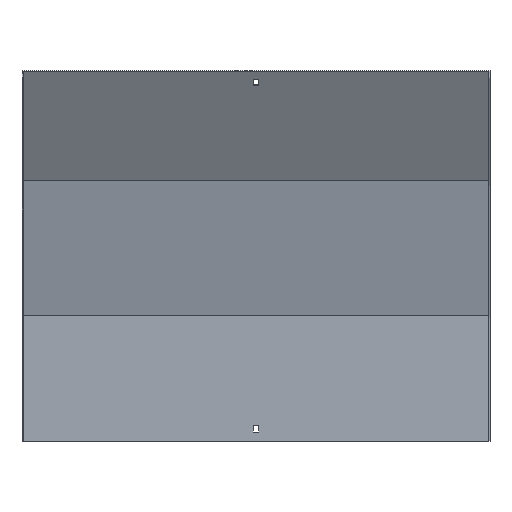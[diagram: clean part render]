
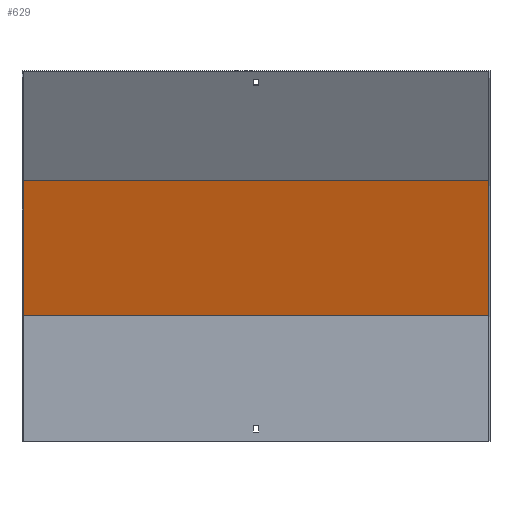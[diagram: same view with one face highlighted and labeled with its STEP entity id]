
A CAD part, front view. The second image highlights one B-rep face of the part: STEP entity #629.
In plain terms, the highlighted planar face has unit normal (0, -0.966, -0.259).
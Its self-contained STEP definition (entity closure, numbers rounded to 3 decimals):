
#61 = FACE_OUTER_BOUND ( 'NONE', #639, .T. ) ;
#119 = VECTOR ( 'NONE', #249, 1000. ) ;
#170 = DIRECTION ( 'NONE',  ( -1., 0., 0. ) ) ;
#178 = DIRECTION ( 'NONE',  ( 0., -0.259, 0.966 ) ) ;
#188 = VECTOR ( 'NONE', #170, 1000. ) ;
#236 = LINE ( 'NONE', #508, #188 ) ;
#249 = DIRECTION ( 'NONE',  ( -1., 0., 0. ) ) ;
#256 = CARTESIAN_POINT ( 'NONE',  ( 300., 18.5, 162.436 ) ) ;
#302 = DIRECTION ( 'NONE',  ( 0., -0.966, -0.259 ) ) ;
#315 = CARTESIAN_POINT ( 'NONE',  ( 301.5, 17.87, 164.788 ) ) ;
#318 = CARTESIAN_POINT ( 'NONE',  ( 301.5, -28.054, 336.178 ) ) ;
#364 = VECTOR ( 'NONE', #178, 1000. ) ;
#366 = CARTESIAN_POINT ( 'NONE',  ( 300., 57.87, 15.506 ) ) ;
#452 = CARTESIAN_POINT ( 'NONE',  ( -300., 18.5, 162.436 ) ) ;
#457 = DIRECTION ( 'NONE',  ( 0., -0.259, 0.966 ) ) ;
#467 = ORIENTED_EDGE ( 'NONE', *, *, #663, .F. ) ;
#508 = CARTESIAN_POINT ( 'NONE',  ( 301.5, 18.5, 162.436 ) ) ;
#528 = VERTEX_POINT ( 'NONE', #702 ) ;
#540 = CARTESIAN_POINT ( 'NONE',  ( 300., -28.054, 336.178 ) ) ;
#546 = EDGE_CURVE ( 'NONE', #771, #528, #583, .T. ) ;
#548 = EDGE_CURVE ( 'NONE', #602, #528, #717, .T. ) ;
#562 = AXIS2_PLACEMENT_3D ( 'NONE', #315, #302, #568 ) ;
#568 = DIRECTION ( 'NONE',  ( 0., 0.259, -0.966 ) ) ;
#583 = LINE ( 'NONE', #318, #119 ) ;
#588 = CARTESIAN_POINT ( 'NONE',  ( -300., 57.87, 15.506 ) ) ;
#602 = VERTEX_POINT ( 'NONE', #452 ) ;
#629 = ADVANCED_FACE ( 'NONE', ( #61 ), #770, .T. ) ;
#639 = EDGE_LOOP ( 'NONE', ( #691, #467, #715, #802 ) ) ;
#663 = EDGE_CURVE ( 'NONE', #731, #602, #236, .T. ) ;
#667 = VECTOR ( 'NONE', #457, 1000. ) ;
#691 = ORIENTED_EDGE ( 'NONE', *, *, #548, .F. ) ;
#702 = CARTESIAN_POINT ( 'NONE',  ( -300., -28.054, 336.178 ) ) ;
#714 = LINE ( 'NONE', #366, #667 ) ;
#715 = ORIENTED_EDGE ( 'NONE', *, *, #722, .T. ) ;
#717 = LINE ( 'NONE', #588, #364 ) ;
#722 = EDGE_CURVE ( 'NONE', #731, #771, #714, .T. ) ;
#731 = VERTEX_POINT ( 'NONE', #256 ) ;
#770 = PLANE ( 'NONE',  #562 ) ;
#771 = VERTEX_POINT ( 'NONE', #540 ) ;
#802 = ORIENTED_EDGE ( 'NONE', *, *, #546, .T. ) ;
